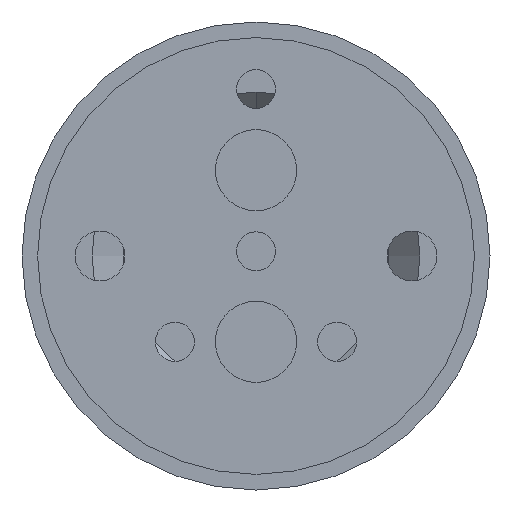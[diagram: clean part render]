
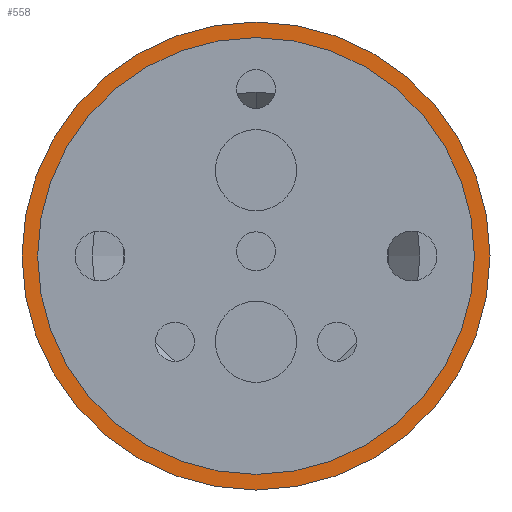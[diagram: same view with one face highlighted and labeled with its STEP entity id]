
A CAD part, left-side view. The second image highlights one B-rep face of the part: STEP entity #558.
In plain terms, the highlighted planar face has unit normal (-1, 0, 0).
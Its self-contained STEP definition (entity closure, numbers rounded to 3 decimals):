
#77 = ORIENTED_EDGE ( 'NONE', *, *, #1436, .F. ) ;
#127 = VERTEX_POINT ( 'NONE', #678 ) ;
#140 = AXIS2_PLACEMENT_3D ( 'NONE', #1773, #513, #654 ) ;
#176 = EDGE_LOOP ( 'NONE', ( #188, #77 ) ) ;
#188 = ORIENTED_EDGE ( 'NONE', *, *, #1537, .F. ) ;
#197 = CARTESIAN_POINT ( 'NONE',  ( 0., 0., -14. ) ) ;
#269 = DIRECTION ( 'NONE',  ( 0., 0., -1. ) ) ;
#281 = DIRECTION ( 'NONE',  ( 0., 0., -1. ) ) ;
#306 = DIRECTION ( 'NONE',  ( 1., 0., 0. ) ) ;
#317 = FACE_OUTER_BOUND ( 'NONE', #176, .T. ) ;
#424 = DIRECTION ( 'NONE',  ( 1., 0., 0. ) ) ;
#426 = CARTESIAN_POINT ( 'NONE',  ( 0., 0., 0. ) ) ;
#513 = DIRECTION ( 'NONE',  ( -1., 0., 0. ) ) ;
#553 = AXIS2_PLACEMENT_3D ( 'NONE', #426, #911, #281 ) ;
#558 = ADVANCED_FACE ( 'NONE', ( #1318, #317 ), #1973, .T. ) ;
#576 = AXIS2_PLACEMENT_3D ( 'NONE', #1403, #424, #269 ) ;
#654 = DIRECTION ( 'NONE',  ( 0., 0., 1. ) ) ;
#678 = CARTESIAN_POINT ( 'NONE',  ( 0., 0., -15. ) ) ;
#737 = CARTESIAN_POINT ( 'NONE',  ( 0., 0., 14. ) ) ;
#873 = CARTESIAN_POINT ( 'NONE',  ( 0., 0., 15. ) ) ;
#911 = DIRECTION ( 'NONE',  ( 1., 0., 0. ) ) ;
#936 = VERTEX_POINT ( 'NONE', #737 ) ;
#1017 = EDGE_CURVE ( 'NONE', #936, #1756, #2056, .T. ) ;
#1028 = EDGE_CURVE ( 'NONE', #1756, #936, #1497, .T. ) ;
#1054 = DIRECTION ( 'NONE',  ( 1., 0., 0. ) ) ;
#1071 = CARTESIAN_POINT ( 'NONE',  ( 0., 0., 0. ) ) ;
#1194 = AXIS2_PLACEMENT_3D ( 'NONE', #1071, #1054, #1729 ) ;
#1212 = CIRCLE ( 'NONE', #1581, 15. ) ;
#1283 = VERTEX_POINT ( 'NONE', #873 ) ;
#1318 = FACE_BOUND ( 'NONE', #1966, .T. ) ;
#1403 = CARTESIAN_POINT ( 'NONE',  ( 0., 0., 0. ) ) ;
#1408 = CIRCLE ( 'NONE', #576, 15. ) ;
#1436 = EDGE_CURVE ( 'NONE', #1283, #127, #1212, .T. ) ;
#1497 = CIRCLE ( 'NONE', #553, 14. ) ;
#1537 = EDGE_CURVE ( 'NONE', #127, #1283, #1408, .T. ) ;
#1580 = DIRECTION ( 'NONE',  ( 0., 0., -1. ) ) ;
#1581 = AXIS2_PLACEMENT_3D ( 'NONE', #1747, #306, #1580 ) ;
#1649 = ORIENTED_EDGE ( 'NONE', *, *, #1017, .T. ) ;
#1729 = DIRECTION ( 'NONE',  ( 0., 0., -1. ) ) ;
#1740 = ORIENTED_EDGE ( 'NONE', *, *, #1028, .T. ) ;
#1747 = CARTESIAN_POINT ( 'NONE',  ( 0., 0., 0. ) ) ;
#1756 = VERTEX_POINT ( 'NONE', #197 ) ;
#1773 = CARTESIAN_POINT ( 'NONE',  ( 0., 14., 0. ) ) ;
#1966 = EDGE_LOOP ( 'NONE', ( #1740, #1649 ) ) ;
#1973 = PLANE ( 'NONE',  #140 ) ;
#2056 = CIRCLE ( 'NONE', #1194, 14. ) ;
